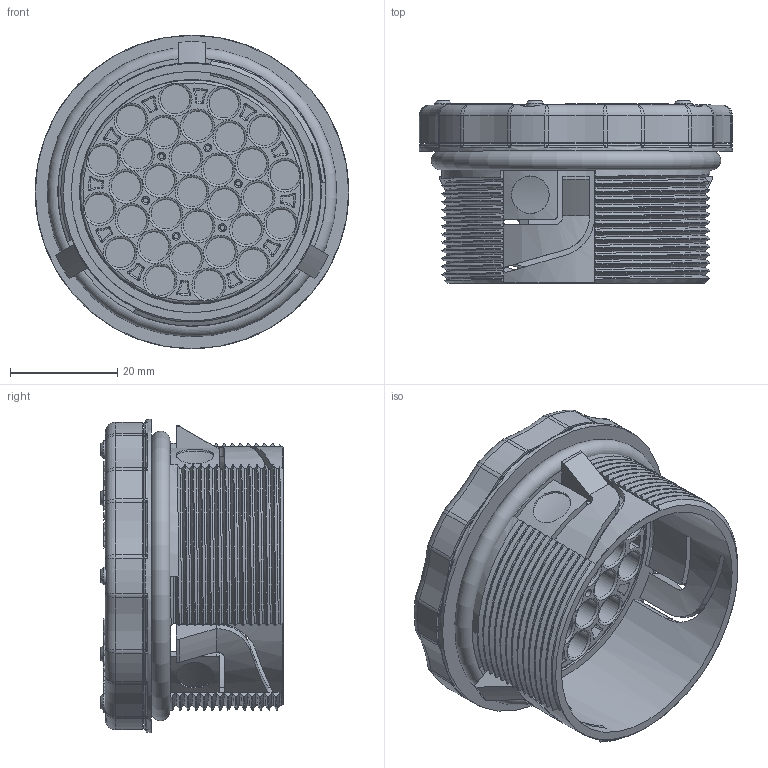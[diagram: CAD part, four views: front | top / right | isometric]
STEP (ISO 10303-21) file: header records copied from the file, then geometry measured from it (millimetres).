
FILE_DESCRIPTION(/* description */ (''),/* implementation_level */ '2;1');
FILE_NAME(/* name */ 'C:\SapWorkDir\Inventor\MP1\ConvertTempPath\87_16_121507_00_A_220622_KDP-R M50-31 ZSB.stp',/* time_stamp */ '2022-06-22T16:11:28+02:00',/* author */ ('BAUER'),/* organization */ (''),/* preprocessor_version */ 'ST-DEVELOPER v16.13',/* originating_system */ 'Autodesk Inventor 2018',/* authorisation */ '');
FILE_SCHEMA (('AUTOMOTIVE_DESIGN { 1 0 10303 214 3 1 1 }'));
Products named in the file (7): 121507; Gehäuse; 121499; 105796_MPS_3F1; 105797_MPS_3F1; 105799_MPS_3F1; 87.16.44.6
Assembly tree (6 placements, depth 2):
  121507
    Gehäuse
    121499
    105796_MPS_3F1
    105797_MPS_3F1
    105799_MPS_3F1
    87.16.44.6
Bounding box: 58.4 x 34 x 58.4 mm (x, y, z)
Volume: 27367.3 mm3; surface area: 36236.3 mm2
Topology: 6 solids, 6 shells, 2276 faces, 5850 edges, 3616 vertices
Faces by surface type: cylinder 773, plane 576, torus 435, bspline 332, sphere 134, cone 26
Full cylindrical faces by diameter (mm): 1.5 x6, 3.5 x2, 3.6 x31, 3.8 x11, 4 x2, 5 x31, 5.5 x31, 6 x31, 6.2 x5, 7 x3, 43.4 x2, 44.2 x2, 45 x1, 46 x3, 48.7 x1, 50 x1, 53.4 x1, 54.4 x1, 58.4 x1
Entity records: 74568 total; most frequent: CARTESIAN_POINT 20525, DIRECTION 11514, ORIENTED_EDGE 10912, EDGE_CURVE 5456, AXIS2_PLACEMENT_3D 4865, VERTEX_POINT 3549, CIRCLE 2868, EDGE_LOOP 2849
